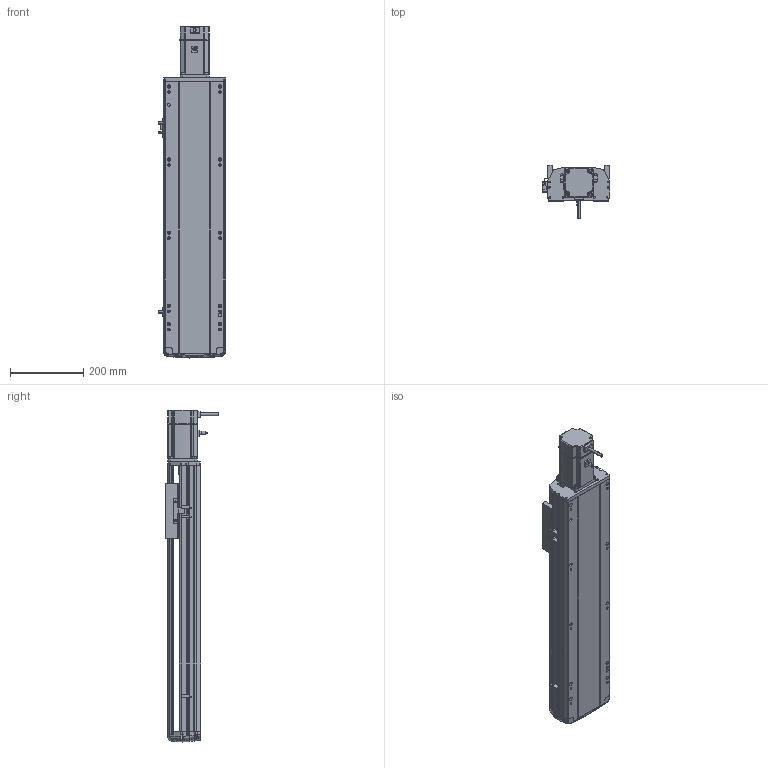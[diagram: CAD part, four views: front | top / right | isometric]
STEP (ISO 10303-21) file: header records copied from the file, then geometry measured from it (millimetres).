
FILE_DESCRIPTION (( 'STEP AP214' ), '1' );
FILE_NAME ('RTH17-XX-500-E-M75-C4.STEP', '2025-10-24T09:37:47', ( '' ), ( '' ), 'SwSTEP 2.0', 'SolidWorks 2018', '' );
FILE_SCHEMA (( 'AUTOMOTIVE_DESIGN' ));
Length unit declared in the file: millimetre
Products named in the file (9): N_RTH17-E-007上盖^RTH17-XX-XX-E-M75-C4（方程式）; N_M75^RTH17-XX-XX-E-M75-C4（方程式）; N_RTH17-E-008-P75电机板^RTH17-XX-XX-E-M75-C4（方程式）; RTH17-XX-500-E-M75-C4; N_OMRON EE-SX672 換覜ん^RTH17-XX-XX-E-M75-C4ㄗ源最宒ㄘ; N_RTH-L-012 感应片(外置)^RTH17-XX-XX-E-M75-C4（方程式）; N_RTH17-E-004丝杆螺母连接座^RTH17-XX-XX-E-M75-C4（方程式）; N_RTH17-E-011底座^RTH17-XX-XX-E-M75-C4（方程式）; N_RTH17-GY-001P^RTH17-XX-XX-E-M75-C4（方程式）
Assembly tree (10 placements, depth 2):
  RTH17-XX-500-E-M75-C4
    N_RTH17-E-011底座^RTH17-XX-XX-E-M75-C4（方程式）
    N_RTH17-E-007上盖^RTH17-XX-XX-E-M75-C4（方程式）
    N_M75^RTH17-XX-XX-E-M75-C4（方程式）
    N_RTH17-E-008-P75电机板^RTH17-XX-XX-E-M75-C4（方程式）
    N_OMRON EE-SX672 換覜ん^RTH17-XX-XX-E-M75-C4ㄗ源最宒ㄘ  x3
    N_RTH-L-012 感应片(外置)^RTH17-XX-XX-E-M75-C4（方程式）
    N_RTH17-E-004丝杆螺母连接座^RTH17-XX-XX-E-M75-C4（方程式）
    N_RTH17-GY-001P^RTH17-XX-XX-E-M75-C4（方程式）
Bounding box: 183.5 x 145.7 x 908.19 mm (x, y, z)
Volume: 6784003.6 mm3; surface area: 904420.7 mm2
Topology: 9 solids, 11 shells, 1764 faces, 4875 edges, 3158 vertices
Faces by surface type: plane 822, cylinder 528, bspline 377, cone 28, torus 9
Entity records: 51766 total; most frequent: CARTESIAN_POINT 20409, ORIENTED_EDGE 6774, DIRECTION 5687, EDGE_CURVE 3391, VERTEX_POINT 2194, AXIS2_PLACEMENT_3D 1931, VECTOR 1825, LINE 1825
